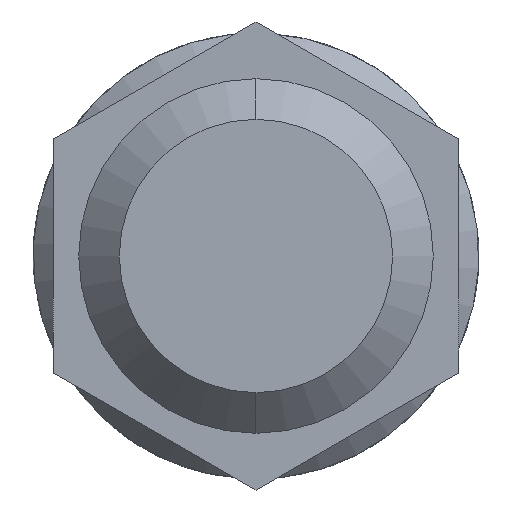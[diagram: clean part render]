
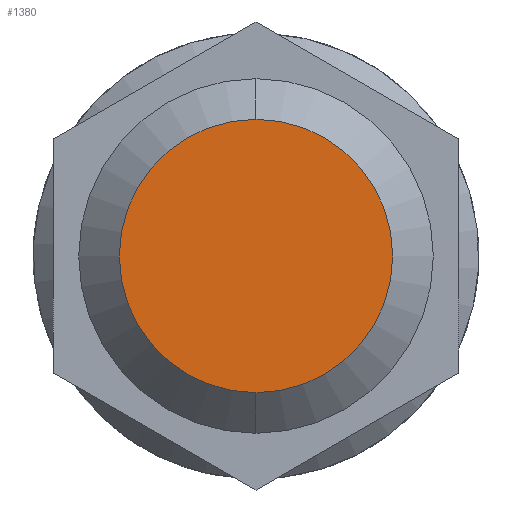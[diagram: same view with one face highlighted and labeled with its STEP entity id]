
A CAD part, left-side view. The second image highlights one B-rep face of the part: STEP entity #1380.
In plain terms, the highlighted planar face has unit normal (-1, 0, 0).
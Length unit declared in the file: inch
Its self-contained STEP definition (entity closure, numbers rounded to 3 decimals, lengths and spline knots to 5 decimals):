
#24 = AXIS2_PLACEMENT_3D ( 'NONE', #637, #633, #630 ) ;
#43 = CIRCLE ( 'NONE', #540, 0.3373 ) ;
#398 = CIRCLE ( 'NONE', #24, 0.3373 ) ;
#415 = FACE_OUTER_BOUND ( 'NONE', #961, .T. ) ;
#464 = PLANE ( 'NONE',  #524 ) ;
#479 = CARTESIAN_POINT ( 'NONE',  ( -2.125, 0.3373, 0. ) ) ;
#484 = DIRECTION ( 'NONE',  ( 0., 0., 1. ) ) ;
#485 = DIRECTION ( 'NONE',  ( -1., 0., 0. ) ) ;
#524 = AXIS2_PLACEMENT_3D ( 'NONE', #479, #485, #484 ) ;
#540 = AXIS2_PLACEMENT_3D ( 'NONE', #836, #833, #864 ) ;
#583 = CARTESIAN_POINT ( 'NONE',  ( -2.125, 0., -0.3373 ) ) ;
#621 = CARTESIAN_POINT ( 'NONE',  ( -2.125, 0., 0.3373 ) ) ;
#630 = DIRECTION ( 'NONE',  ( 0., 0., -1. ) ) ;
#633 = DIRECTION ( 'NONE',  ( 1., 0., 0. ) ) ;
#637 = CARTESIAN_POINT ( 'NONE',  ( -2.125, 0., 0. ) ) ;
#833 = DIRECTION ( 'NONE',  ( 1., 0., 0. ) ) ;
#836 = CARTESIAN_POINT ( 'NONE',  ( -2.125, 0., 0. ) ) ;
#864 = DIRECTION ( 'NONE',  ( 0., 0., -1. ) ) ;
#961 = EDGE_LOOP ( 'NONE', ( #1211, #1130 ) ) ;
#1045 = EDGE_CURVE ( 'NONE', #1096, #1089, #398, .T. ) ;
#1089 = VERTEX_POINT ( 'NONE', #583 ) ;
#1096 = VERTEX_POINT ( 'NONE', #621 ) ;
#1130 = ORIENTED_EDGE ( 'NONE', *, *, #1045, .F. ) ;
#1211 = ORIENTED_EDGE ( 'NONE', *, *, #1403, .F. ) ;
#1380 = ADVANCED_FACE ( 'NONE', ( #415 ), #464, .T. ) ;
#1403 = EDGE_CURVE ( 'NONE', #1089, #1096, #43, .T. ) ;
